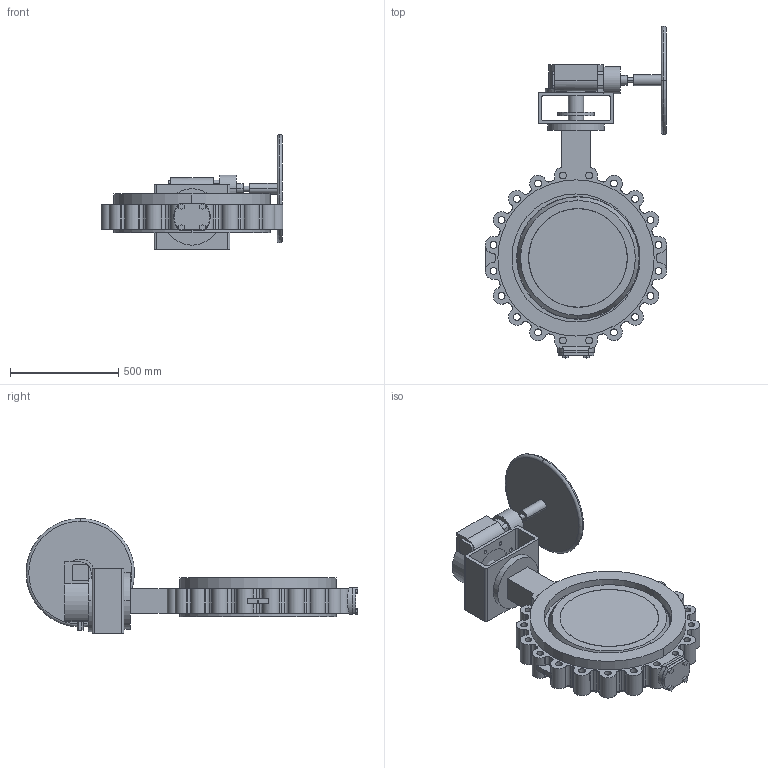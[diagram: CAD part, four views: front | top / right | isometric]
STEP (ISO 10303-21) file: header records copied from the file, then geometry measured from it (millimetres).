
FILE_DESCRIPTION( ( '' ), '1' );
FILE_NAME( 'F:/DE-SHS/TB/OR/04-Sonstiges/daten/Excel/mneugeba/018_ZETRIX-PN25_Getriebe-Rotork/c000006450.stp', '2016-09-19T06:37:13', ( '' ), ( '' ), ' ', ' ', ' ' );
FILE_SCHEMA( ( 'CONFIG_CONTROL_DESIGN' ) );
Length unit declared in the file: millimetre
Products named in the file (2): 1; 2
Bounding box: 837.48 x 1530 x 530 mm (x, y, z)
Volume: 81967578.6 mm3; surface area: 3844764.2 mm2
Topology: 2 solids, 2 shells, 426 faces, 1169 edges, 777 vertices
Faces by surface type: cylinder 259, plane 155, cone 4, sphere 4, torus 4
Entity records: 14868 total; most frequent: CARTESIAN_POINT 3313, DIRECTION 2560, ORIENTED_EDGE 2338, EDGE_CURVE 1169, AXIS2_PLACEMENT_3D 998, VERTEX_POINT 777, CIRCLE 566, LINE 564
